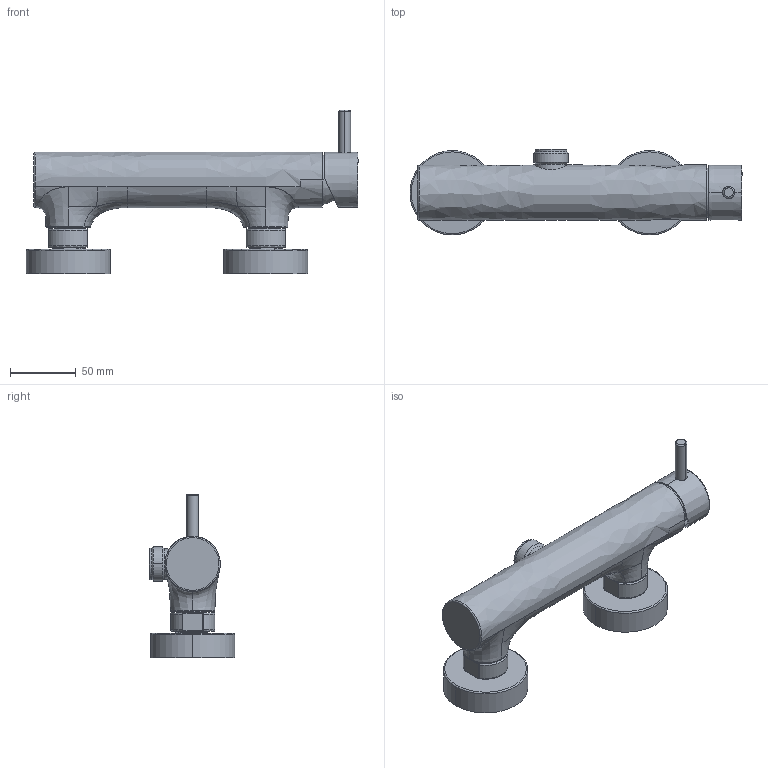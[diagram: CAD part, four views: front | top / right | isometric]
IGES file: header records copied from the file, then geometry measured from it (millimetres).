
Start section:  PTC IGES file: 12007.igs
Global section: file name: 12007.igs; native system: Creo Parametric by PTC Inc.; preprocessor: 2022014; author: carloff; organization: Unknown; date: 20250226.150519; units: millimetre
Bounding box: 252 x 65 x 124.1 mm (x, y, z)
Surface area: 72498.6 mm2 (no closed solid volume)
Topology: 0 solids, 0 shells, 292 faces, 1430 edges, 1425 vertices
Faces by surface type: bspline 161, revolution 131
